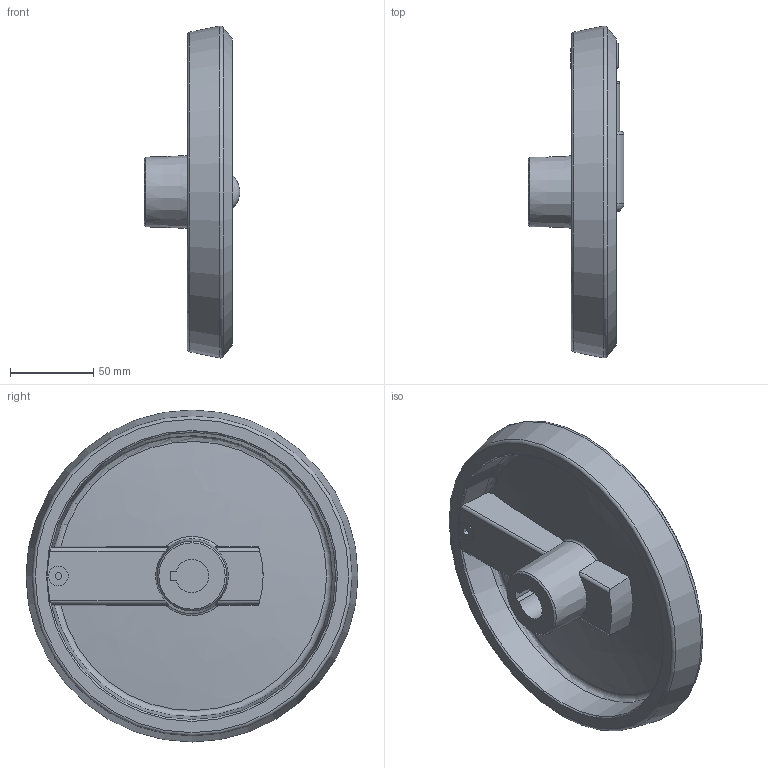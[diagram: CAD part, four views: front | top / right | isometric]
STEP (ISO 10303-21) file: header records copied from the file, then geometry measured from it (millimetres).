
FILE_DESCRIPTION( ( 'STEP AP203' ), '1' );
FILE_NAME( 'C:/Temp/Ganter_Step_05_03_2020/data/1_3/gn_923_7/gn_923_7_k/Handwheel with retractable handle GN 923.7-200-K20-R-SW (unactivated).stp', '2020-03-05T10:40:40', ( 'License CC BY-ND 4.0' ), ( 'CADENAS' ), ' ', 'PARTsolutions', ' ' );
FILE_SCHEMA( ( 'CONFIG_CONTROL_DESIGN' ) );
Length unit declared in the file: millimetre
Products named in the file (3): Handwheel with retractable handle GN 923.7-200-K20-R-SW (unactivated); _Umleggriff-Handrad GN 923.7-200-K20-R-SW-1; _Umleggriff-Handrad GN 923.7-200-K20-R-SW (0)-2
Assembly tree (2 placements, depth 2):
  Handwheel with retractable handle GN 923.7-200-K20-R-SW (unactivated)
    _Umleggriff-Handrad GN 923.7-200-K20-R-SW-1
    _Umleggriff-Handrad GN 923.7-200-K20-R-SW (0)-2
Bounding box: 57.7 x 200 x 200 mm (x, y, z)
Volume: 399467.7 mm3; surface area: 108697 mm2
Topology: 2 solids, 2 shells, 112 faces, 275 edges, 175 vertices
Faces by surface type: plane 47, cylinder 29, cone 14, torus 14, bspline 6, sphere 2
Full cylindrical faces by diameter (mm): 4 x2, 5 x1, 8 x1, 12 x1, 15 x1, 20 x2, 23 x1, 25 x1
Entity records: 3677 total; most frequent: CARTESIAN_POINT 1093, DIRECTION 515, ORIENTED_EDGE 484, EDGE_CURVE 242, AXIS2_PLACEMENT_3D 214, VERTEX_POINT 170, EDGE_LOOP 149, FACE_OUTER_BOUND 129
